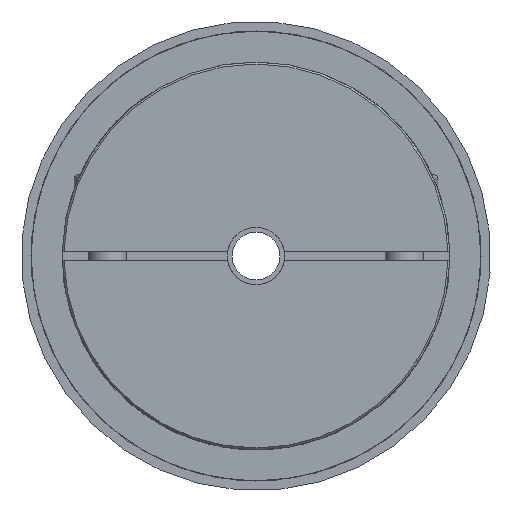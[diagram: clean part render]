
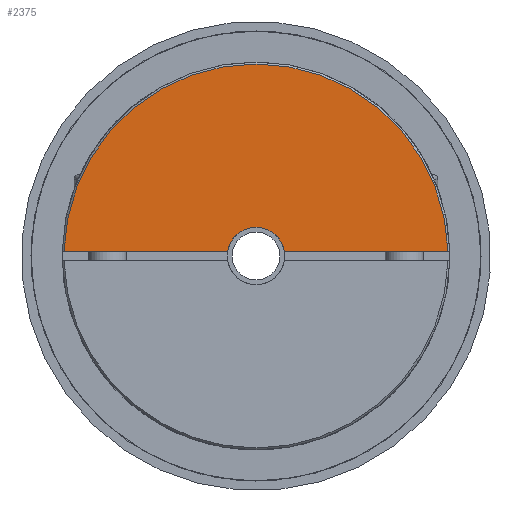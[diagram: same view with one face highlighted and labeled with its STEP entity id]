
A CAD part, left-side view. The second image highlights one B-rep face of the part: STEP entity #2375.
In plain terms, the highlighted planar face has unit normal (-1, 0, 0) as drawn and (1, 0, 0) by its records, which use the part's own axes.
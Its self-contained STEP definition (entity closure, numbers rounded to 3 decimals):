
#2375 = ADVANCED_FACE( '', ( #3260 ), #3261, .F. );
#3260 = FACE_OUTER_BOUND( '', #4718, .T. );
#3261 = PLANE( '', #4719 );
#4718 = EDGE_LOOP( '', ( #5341, #5342, #5343, #5344 ) );
#4719 = AXIS2_PLACEMENT_3D( '', #5345, #5346, #5347 );
#5341 = ORIENTED_EDGE( '', *, *, #6153, .T. );
#5342 = ORIENTED_EDGE( '', *, *, #6169, .T. );
#5343 = ORIENTED_EDGE( '', *, *, #6170, .T. );
#5344 = ORIENTED_EDGE( '', *, *, #6171, .T. );
#5345 = CARTESIAN_POINT( '', ( 13.5, 0., 3. ) );
#5346 = DIRECTION( '', ( -1., 0., 0. ) );
#5347 = DIRECTION( '', ( 0., 0., 1. ) );
#6153 = EDGE_CURVE( '', #7475, #7473, #7476, .T. );
#6169 = EDGE_CURVE( '', #7473, #7505, #7506, .F. );
#6170 = EDGE_CURVE( '', #7505, #7507, #7508, .T. );
#6171 = EDGE_CURVE( '', #7507, #7475, #7509, .T. );
#7473 = VERTEX_POINT( '', #8200 );
#7475 = VERTEX_POINT( '', #8205 );
#7476 = LINE( '', #8206, #8207 );
#7505 = VERTEX_POINT( '', #8375 );
#7506 = CIRCLE( '', #8376, 20.05 );
#7507 = VERTEX_POINT( '', #8377 );
#7508 = LINE( '', #8378, #8379 );
#7509 = CIRCLE( '', #8380, 3. );
#8200 = CARTESIAN_POINT( '', ( 13.5, 20.044, 0.5 ) );
#8205 = CARTESIAN_POINT( '', ( 13.5, 2.958, 0.5 ) );
#8206 = CARTESIAN_POINT( '', ( 13.5, 0., 0.5 ) );
#8207 = VECTOR( '', #8466, 1000. );
#8375 = CARTESIAN_POINT( '', ( 13.5, -20.044, 0.5 ) );
#8376 = AXIS2_PLACEMENT_3D( '', #8500, #8501, #8502 );
#8377 = CARTESIAN_POINT( '', ( 13.5, -2.958, 0.5 ) );
#8378 = CARTESIAN_POINT( '', ( 13.5, 0., 0.5 ) );
#8379 = VECTOR( '', #8503, 1000. );
#8380 = AXIS2_PLACEMENT_3D( '', #8504, #8505, #8506 );
#8466 = DIRECTION( '', ( 0., 1., 0. ) );
#8500 = CARTESIAN_POINT( '', ( 13.5, 0., 0. ) );
#8501 = DIRECTION( '', ( -1., 0., 0. ) );
#8502 = DIRECTION( '', ( 0., 0., 1. ) );
#8503 = DIRECTION( '', ( 0., 1., 0. ) );
#8504 = CARTESIAN_POINT( '', ( 13.5, 0., 0. ) );
#8505 = DIRECTION( '', ( -1., 0., 0. ) );
#8506 = DIRECTION( '', ( 0., 0., 1. ) );
